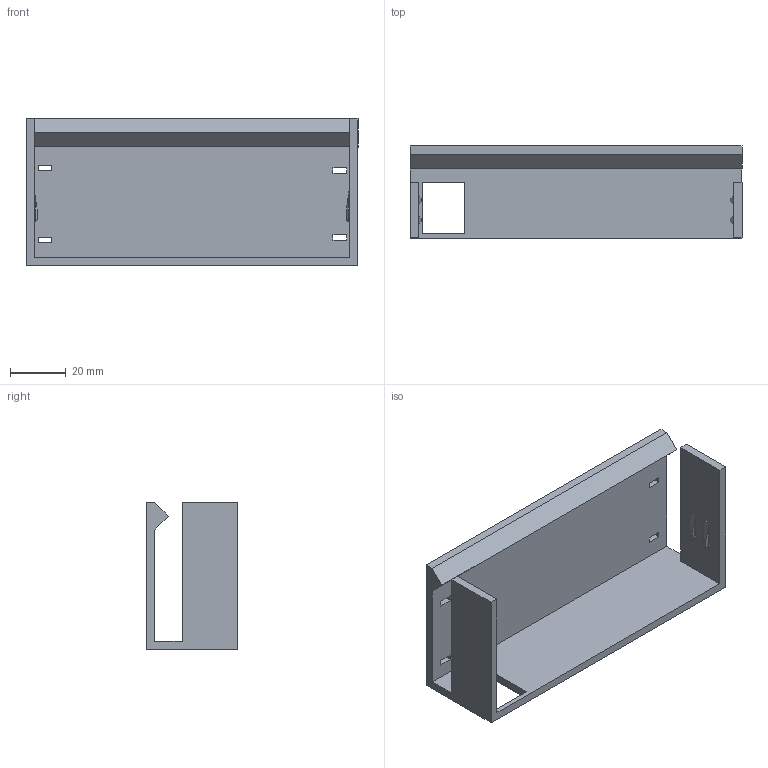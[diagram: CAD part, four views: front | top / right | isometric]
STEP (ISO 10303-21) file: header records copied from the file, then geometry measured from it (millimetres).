
FILE_DESCRIPTION(/* description */ (''),/* implementation_level */ '2;1');
FILE_NAME(/* name */ 'PSU Cover v3.step',/* time_stamp */ '2023-03-23T06:37:45-06:00',/* author */ (''),/* organization */ (''),/* preprocessor_version */ 'ST-DEVELOPER v19.2',/* originating_system */ 'Autodesk Translation Framework v11.17.0.187',/* authorisation */ '');
FILE_SCHEMA (('AUTOMOTIVE_DESIGN { 1 0 10303 214 3 1 1 }'));
Length unit declared in the file: millimetre
Products named in the file (1): PSU Cover
Bounding box: 119.31 x 33 x 53 mm (x, y, z)
Volume: 37801.9 mm3; surface area: 25945.4 mm2
Topology: 1 solids, 1 shells, 72 faces, 190 edges, 124 vertices
Faces by surface type: plane 64, cone 4, cylinder 4
Entity records: 2224 total; most frequent: CARTESIAN_POINT 387, ORIENTED_EDGE 380, DIRECTION 348, EDGE_CURVE 190, LINE 178, VECTOR 178, VERTEX_POINT 124, EDGE_LOOP 86
